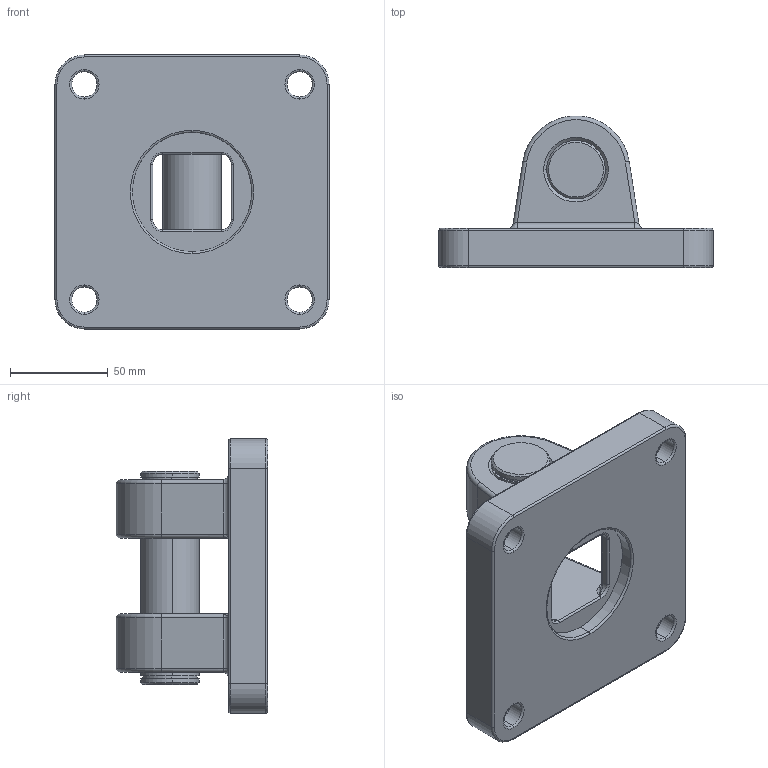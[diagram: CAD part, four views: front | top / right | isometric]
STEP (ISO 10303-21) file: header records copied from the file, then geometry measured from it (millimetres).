
FILE_DESCRIPTION (( 'STEP AP203' ), '1' );
FILE_NAME ('蚾饜极-ISO-CN 125.STEP', '2022-06-23T10:27:02', ( 'Windows' ), ( 'Microsoft' ), 'SwSTEP 2.0', 'SolidWorks 2018', '' );
FILE_SCHEMA (( 'CONFIG_CONTROL_DESIGN' ));
Length unit declared in the file: millimetre
Products named in the file (3): ISO-CN 125-MP; ISO-CN 125-种赽; 蚾饜极-ISO-CN 125
Assembly tree (2 placements, depth 2):
  蚾饜极-ISO-CN 125
    ISO-CN 125-MP
    ISO-CN 125-种赽
Bounding box: 140 x 77.4 x 140 mm (x, y, z)
Volume: 536714 mm3; surface area: 82773.3 mm2
Topology: 2 solids, 2 shells, 351 faces, 858 edges, 526 vertices
Faces by surface type: plane 97, cylinder 96, bspline 92, torus 50, cone 16
Entity records: 15157 total; most frequent: CARTESIAN_POINT 7120, ORIENTED_EDGE 1700, DIRECTION 1462, EDGE_CURVE 850, AXIS2_PLACEMENT_3D 532, VERTEX_POINT 526, VECTOR 398, LINE 398
